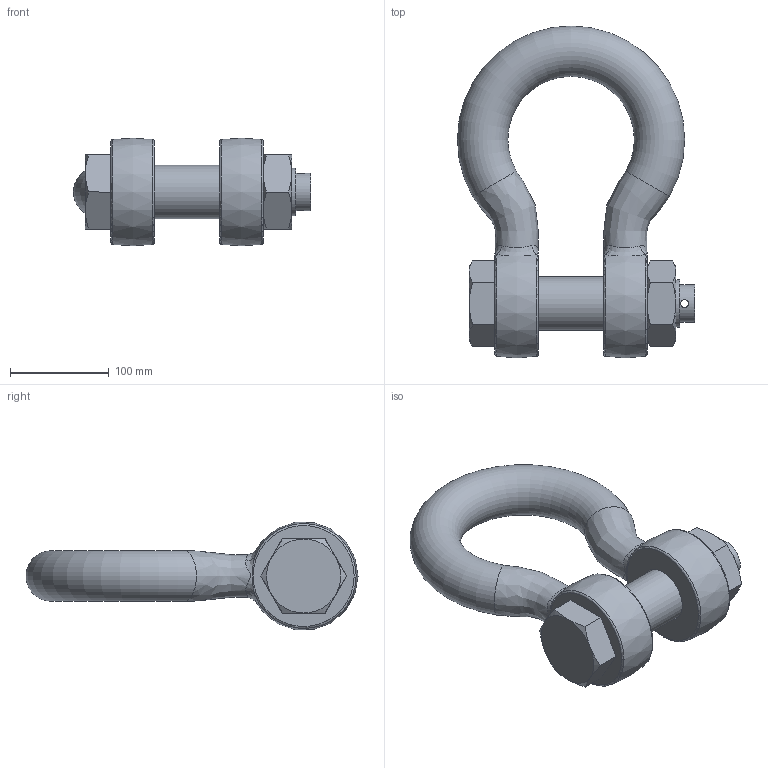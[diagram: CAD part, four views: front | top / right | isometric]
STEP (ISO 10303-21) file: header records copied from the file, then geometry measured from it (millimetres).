
FILE_DESCRIPTION(/* description */ (''),/* implementation_level */ '2;1');
FILE_NAME(/* name */ 'C:\Users\D\Documents\Inventor\HP\吊具\シャックル\BB_2\bb_44.stp',/* time_stamp */ '2024-11-20T10:47:24+09:00',/* author */ ('D'),/* organization */ (''),/* preprocessor_version */ 'ST-DEVELOPER v18',/* originating_system */ 'Autodesk Inventor 2020',/* authorisation */ '');
FILE_SCHEMA (('AUTOMOTIVE_DESIGN { 1 0 10303 214 3 1 1 }'));
Length unit declared in the file: millimetre
Products named in the file (3): bb_44; ba_6; sb_pin_10
Assembly tree (2 placements, depth 2):
  bb_44
    ba_6
    sb_pin_10
Bounding box: 240 x 336 x 108.73 mm (x, y, z)
Volume: 2259181 mm3; surface area: 215813.4 mm2
Topology: 4 solids, 4 shells, 69 faces, 169 edges, 109 vertices
Faces by surface type: plane 26, cone 19, bspline 12, cylinder 7, torus 5
Full cylindrical faces by diameter (mm): 8 x1, 38 x1, 48 x2, 54 x1, 56 x2
Entity records: 3585 total; most frequent: CARTESIAN_POINT 1996, ORIENTED_EDGE 334, DIRECTION 293, EDGE_CURVE 167, AXIS2_PLACEMENT_3D 133, VERTEX_POINT 109, EDGE_LOOP 78, CIRCLE 71
